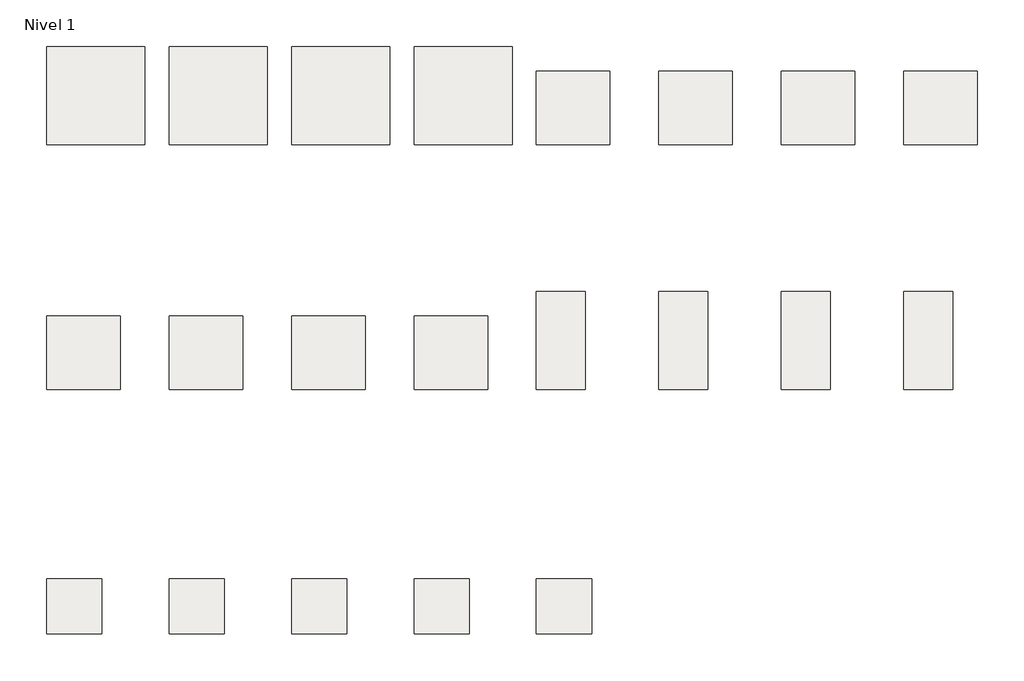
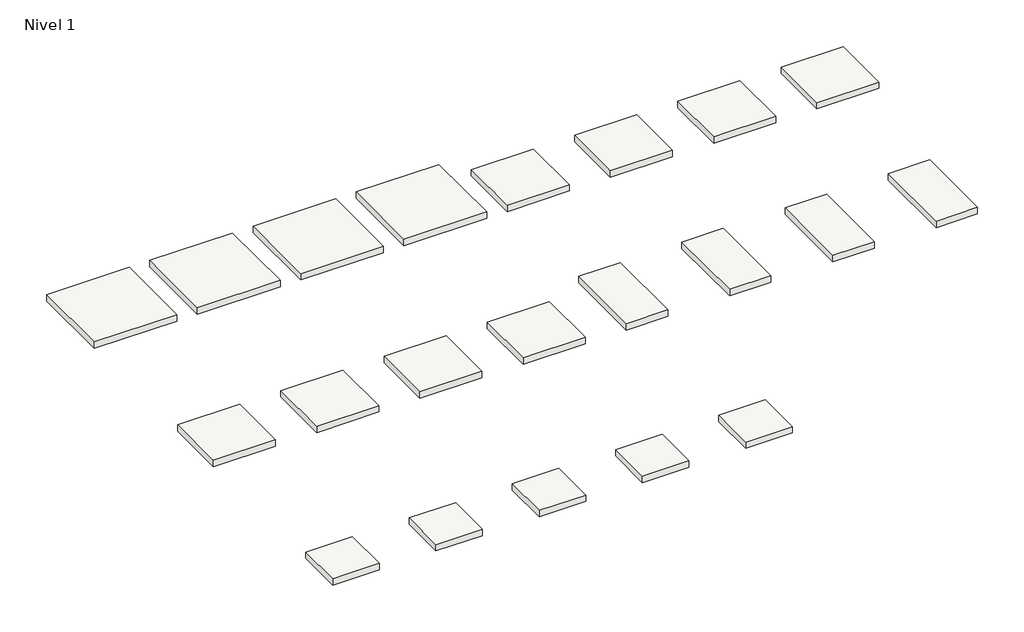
# One storey: 21 slabs.
"""IFC4 building model written with IfcOpenShell, lengths in millimetres."""

from ifc_helpers import new_model, si_unit, frame, origin, place, context, project, spatial, polyline, outline, extrude, element, save

model = new_model("IFC4")

# Units and contexts
model_context = context("Model", 3, world=origin())
ifc_project = project(units=[si_unit("LENGTHUNIT", "METRE", prefix="MILLI")], contexts=[model_context])

# Site, building, storey
site = spatial("IfcSite", under=ifc_project)
building = spatial("IfcBuilding", under=site)
storey = spatial("IfcBuildingStorey", under=building, Name="Nivel 1", Elevation=0.0)

# Slabs
placement = place(None, origin())
element("IfcSlab", 1, ObjectType="Boston Antracita 80X80", at=placement, inside=storey, context=model_context, shape_type="SweptSolid", body=[
    extrude(outline(polyline([(0.0, 800.0), (800.0, 800.0), (800.0, 0.0), (0.0, 0.0), (0.0, 800.0)])), frame((0.0, 0.0, -66.3), z_axis=(0.0, 0.0, 1.0), x_axis=(1.0, 0.0, 0.0)), (0.0, 0.0, 1.0), 66.3),
])
element("IfcSlab", 2, ObjectType="Boston Beige 80X80", at=placement, inside=storey, context=model_context, shape_type="SweptSolid", body=[
    extrude(outline(polyline([(1000.0, 800.0), (1800.0, 800.0), (1800.0, 0.0), (1000.0, 0.0), (1000.0, 800.0)])), frame((0.0, 0.0, -65.0), z_axis=(0.0, 0.0, 1.0), x_axis=(1.0, 0.0, 0.0)), (0.0, 0.0, 1.0), 65.0),
])
element("IfcSlab", 3, ObjectType="Boston Cemento 80X80", at=placement, inside=storey, context=model_context, shape_type="SweptSolid", body=[
    extrude(outline(polyline([(2000.0, 800.0), (2800.0, 800.0), (2800.0, 0.0), (2000.0, 0.0), (2000.0, 800.0)])), frame((0.0, 0.0, -65.0), z_axis=(0.0, 0.0, 1.0), x_axis=(1.0, 0.0, 0.0)), (0.0, 0.0, 1.0), 65.0),
])
element("IfcSlab", 4, ObjectType="Boston Gris 80X80", at=placement, inside=storey, context=model_context, shape_type="SweptSolid", body=[
    extrude(outline(polyline([(3000.0, 800.0), (3800.0, 800.0), (3800.0, 0.0), (3000.0, 0.0), (3000.0, 800.0)])), frame((0.0, 0.0, -65.0), z_axis=(0.0, 0.0, 1.0), x_axis=(1.0, 0.0, 0.0)), (0.0, 0.0, 1.0), 65.0),
])
element("IfcSlab", 5, ObjectType="Boston Antracita 60X60", at=placement, inside=storey, context=model_context, shape_type="SweptSolid", body=[
    extrude(outline(polyline([(4000.0, 600.0), (4600.0, 600.0), (4600.0, 0.0), (4000.0, 0.0), (4000.0, 600.0)])), frame((0.0, 0.0, -65.0), z_axis=(0.0, 0.0, 1.0), x_axis=(1.0, 0.0, 0.0)), (0.0, 0.0, 1.0), 65.0),
])
element("IfcSlab", 6, ObjectType="Boston Beige 60X60", at=placement, inside=storey, context=model_context, shape_type="SweptSolid", body=[
    extrude(outline(polyline([(5000.0, 600.0), (5600.0, 600.0), (5600.0, 0.0), (5000.0, 0.0), (5000.0, 600.0)])), frame((0.0, 0.0, -65.0), z_axis=(0.0, 0.0, 1.0), x_axis=(1.0, 0.0, 0.0)), (0.0, 0.0, 1.0), 65.0),
])
element("IfcSlab", 7, ObjectType="Boston Cemento 60X60", at=placement, inside=storey, context=model_context, shape_type="SweptSolid", body=[
    extrude(outline(polyline([(6000.0, 600.0), (6600.0, 600.0), (6600.0, 0.0), (6000.0, 0.0), (6000.0, 600.0)])), frame((0.0, 0.0, -65.0), z_axis=(0.0, 0.0, 1.0), x_axis=(1.0, 0.0, 0.0)), (0.0, 0.0, 1.0), 65.0),
])
element("IfcSlab", 8, ObjectType="Boston Gris 60X60", at=placement, inside=storey, context=model_context, shape_type="SweptSolid", body=[
    extrude(outline(polyline([(7000.0, 600.0), (7600.0, 600.0), (7600.0, 0.0), (7000.0, 0.0), (7000.0, 600.0)])), frame((0.0, 0.0, -65.0), z_axis=(0.0, 0.0, 1.0), x_axis=(1.0, 0.0, 0.0)), (0.0, 0.0, 1.0), 65.0),
])
element("IfcSlab", 9, ObjectType="Boston Antislip Antracita 60X60", at=placement, inside=storey, context=model_context, shape_type="SweptSolid", body=[
    extrude(outline(polyline([(0.0, -1400.0), (600.0, -1400.0), (600.0, -2000.0), (0.0, -2000.0), (0.0, -1400.0)])), frame((0.0, 0.0, -65.0), z_axis=(0.0, 0.0, 1.0), x_axis=(1.0, 0.0, 0.0)), (0.0, 0.0, 1.0), 65.0),
])
element("IfcSlab", 10, ObjectType="Boston Antislip Beige 60X60", at=placement, inside=storey, context=model_context, shape_type="SweptSolid", body=[
    extrude(outline(polyline([(1000.0, -1400.0), (1600.0, -1400.0), (1600.0, -2000.0), (1000.0, -2000.0), (1000.0, -1400.0)])), frame((0.0, 0.0, -65.0), z_axis=(0.0, 0.0, 1.0), x_axis=(1.0, 0.0, 0.0)), (0.0, 0.0, 1.0), 65.0),
])
element("IfcSlab", 11, ObjectType="Boston Antislip Cemento 60X60", at=placement, inside=storey, context=model_context, shape_type="SweptSolid", body=[
    extrude(outline(polyline([(2000.0, -1400.0), (2600.0, -1400.0), (2600.0, -2000.0), (2000.0, -2000.0), (2000.0, -1400.0)])), frame((0.0, 0.0, -65.0), z_axis=(0.0, 0.0, 1.0), x_axis=(1.0, 0.0, 0.0)), (0.0, 0.0, 1.0), 65.0),
])
element("IfcSlab", 12, ObjectType="Boston Antislip Gris 60X60", at=placement, inside=storey, context=model_context, shape_type="SweptSolid", body=[
    extrude(outline(polyline([(3000.0, -1400.0), (3600.0, -1400.0), (3600.0, -2000.0), (3000.0, -2000.0), (3000.0, -1400.0)])), frame((0.0, 0.0, -65.0), z_axis=(0.0, 0.0, 1.0), x_axis=(1.0, 0.0, 0.0)), (0.0, 0.0, 1.0), 65.0),
])
element("IfcSlab", 13, ObjectType="Boston Antracita 40X80", at=placement, inside=storey, context=model_context, shape_type="SweptSolid", body=[
    extrude(outline(polyline([(4000.0, -1200.0), (4400.0, -1200.0), (4400.0, -2000.0), (4000.0, -2000.0), (4000.0, -1200.0)])), frame((0.0, 0.0, -66.3), z_axis=(0.0, 0.0, 1.0), x_axis=(1.0, 0.0, 0.0)), (0.0, 0.0, 1.0), 66.3),
])
element("IfcSlab", 14, ObjectType="Boston Beige 40X80", at=placement, inside=storey, context=model_context, shape_type="SweptSolid", body=[
    extrude(outline(polyline([(5000.0, -1200.0), (5400.0, -1200.0), (5400.0, -2000.0), (5000.0, -2000.0), (5000.0, -1200.0)])), frame((0.0, 0.0, -66.3), z_axis=(0.0, 0.0, 1.0), x_axis=(1.0, 0.0, 0.0)), (0.0, 0.0, 1.0), 66.3),
])
element("IfcSlab", 15, ObjectType="Boston Cemento 40X80", at=placement, inside=storey, context=model_context, shape_type="SweptSolid", body=[
    extrude(outline(polyline([(6000.0, -1200.0), (6400.0, -1200.0), (6400.0, -2000.0), (6000.0, -2000.0), (6000.0, -1200.0)])), frame((0.0, 0.0, -66.3), z_axis=(0.0, 0.0, 1.0), x_axis=(1.0, 0.0, 0.0)), (0.0, 0.0, 1.0), 66.3),
])
element("IfcSlab", 16, ObjectType="Boston Gris 40X80", at=placement, inside=storey, context=model_context, shape_type="SweptSolid", body=[
    extrude(outline(polyline([(7000.0, -1200.0), (7400.0, -1200.0), (7400.0, -2000.0), (7000.0, -2000.0), (7000.0, -1200.0)])), frame((0.0, 0.0, -66.3), z_axis=(0.0, 0.0, 1.0), x_axis=(1.0, 0.0, 0.0)), (0.0, 0.0, 1.0), 66.3),
])
element("IfcSlab", 17, ObjectType="Boston Antracita 45X45", at=placement, inside=storey, context=model_context, shape_type="SweptSolid", body=[
    extrude(outline(polyline([(0.0, -3550.0), (450.0, -3550.0), (450.0, -4000.0), (0.0, -4000.0), (0.0, -3550.0)])), frame((0.0, 0.0, -65.0), z_axis=(0.0, 0.0, 1.0), x_axis=(1.0, 0.0, 0.0)), (0.0, 0.0, 1.0), 65.0),
])
element("IfcSlab", 18, ObjectType="Boston Beige 45X45", at=placement, inside=storey, context=model_context, shape_type="SweptSolid", body=[
    extrude(outline(polyline([(1000.0, -3550.0), (1450.0, -3550.0), (1450.0, -4000.0), (1000.0, -4000.0), (1000.0, -3550.0)])), frame((0.0, 0.0, -65.0), z_axis=(0.0, 0.0, 1.0), x_axis=(1.0, 0.0, 0.0)), (0.0, 0.0, 1.0), 65.0),
])
element("IfcSlab", 19, ObjectType="Boston Blanco 45X45", at=placement, inside=storey, context=model_context, shape_type="SweptSolid", body=[
    extrude(outline(polyline([(2000.0, -3550.0), (2450.0, -3550.0), (2450.0, -4000.0), (2000.0, -4000.0), (2000.0, -3550.0)])), frame((0.0, 0.0, -65.0), z_axis=(0.0, 0.0, 1.0), x_axis=(1.0, 0.0, 0.0)), (0.0, 0.0, 1.0), 65.0),
])
element("IfcSlab", 20, ObjectType="Boston Cemento 45X45", at=placement, inside=storey, context=model_context, shape_type="SweptSolid", body=[
    extrude(outline(polyline([(3000.0, -3550.0), (3450.0, -3550.0), (3450.0, -4000.0), (3000.0, -4000.0), (3000.0, -3550.0)])), frame((0.0, 0.0, -65.0), z_axis=(0.0, 0.0, 1.0), x_axis=(1.0, 0.0, 0.0)), (0.0, 0.0, 1.0), 65.0),
])
element("IfcSlab", 21, ObjectType="Boston Gris 45X45", at=placement, inside=storey, context=model_context, shape_type="SweptSolid", body=[
    extrude(outline(polyline([(4000.0, -3550.0), (4450.0, -3550.0), (4450.0, -4000.0), (4000.0, -4000.0), (4000.0, -3550.0)])), frame((0.0, 0.0, -65.0), z_axis=(0.0, 0.0, 1.0), x_axis=(1.0, 0.0, 0.0)), (0.0, 0.0, 1.0), 65.0),
])

save(model, "model.ifc")
